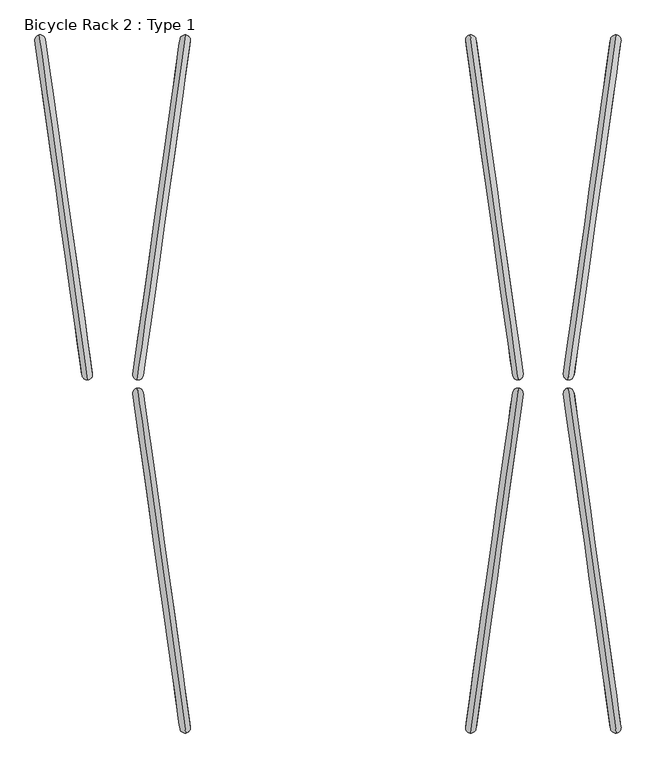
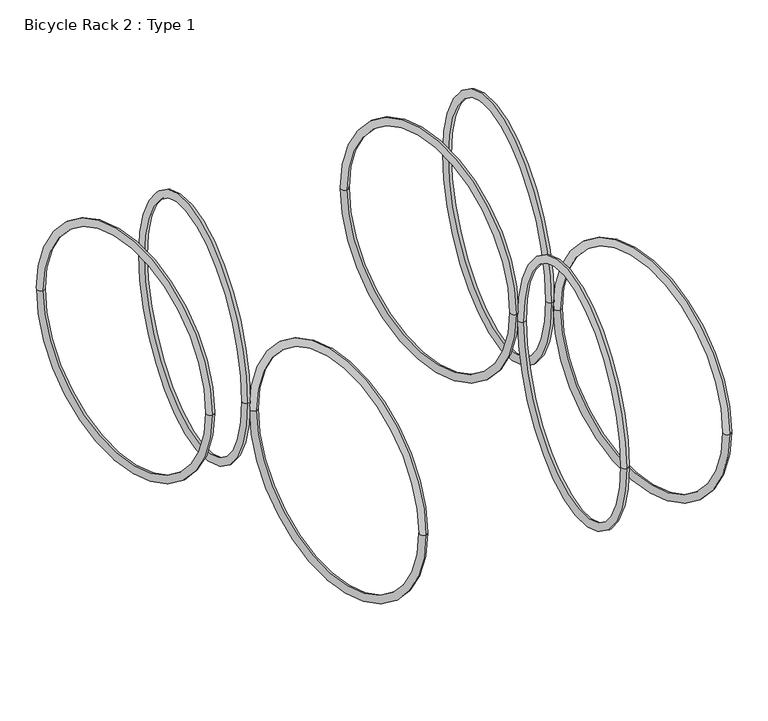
"""IFC4 building model written with IfcOpenShell, lengths in millimetres: proxy geometry, Bicycle Rack 2 : Type 1."""

from ifc_helpers import new_model, si_unit, point, frame, origin, place, context, project, spatial, circle_curve, ellipse_curve, trimmed, source, transform, mapped, element, save
from ifc_brep_helpers import revolved_surface, advanced_brep


def bicycle_rack_2_type_1_ab666c17(model_context):
    return source(origin(), model_context, "Body", "AdvancedBrep", [
        advanced_brep(
        [(1982.5111695, -21.9255981, 304.7993564), (2051.0017319, -509.2612714, 304.7993564), (2053.2111048, -524.981777, 304.7993564), (1980.3017966, -6.2050925, 304.7993564)],
        [
            (0, 1, circle_curve(frame((2016.7564507, -265.5934347, 304.7993564), z_axis=(0.9902680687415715, 0.1391731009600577, 0.0), x_axis=(0.1391731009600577, -0.9902680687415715, 0.0)), 246.0625)),
            (1, 2, circle_curve(frame((2052.1064183, -517.1215242, 304.7993564), z_axis=(0.0, 0.0, 1.0), x_axis=(-0.13917310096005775, 0.9902680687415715, 0.0)), 7.9375)),
            (2, 3, circle_curve(frame((2016.7564507, -265.5934347, 304.7993564), z_axis=(-0.9902680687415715, -0.1391731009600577, 0.0), x_axis=(0.1391731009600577, -0.9902680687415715, 0.0)), 261.9375)),
            (3, 0, circle_curve(frame((1981.4064831, -14.0653453, 304.7993564), z_axis=(0.0, 0.0, 1.0), x_axis=(0.13917310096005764, -0.9902680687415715, 0.0)), 7.9375)),
            (2, 1, circle_curve(frame((2052.1064183, -517.1215242, 304.7993564), z_axis=(0.0, 0.0, 1.0), x_axis=(-0.13917310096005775, 0.9902680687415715, 0.0)), 7.9375)),
            (0, 3, circle_curve(frame((1981.4064831, -14.0653453, 304.7993564), z_axis=(0.0, 0.0, 1.0), x_axis=(0.13917310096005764, -0.9902680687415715, 0.0)), 7.9375)),
            (1, 0, circle_curve(frame((2016.7564507, -265.5934347, 304.7993564), z_axis=(0.9902680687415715, 0.1391731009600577, 0.0), x_axis=(-0.1391731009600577, 0.9902680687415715, 0.0)), 246.0625)),
            (3, 2, circle_curve(frame((2016.7564507, -265.5934347, 304.7993564), z_axis=(-0.9902680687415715, -0.1391731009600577, 0.0), x_axis=(-0.1391731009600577, 0.9902680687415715, 0.0)), 261.9375)),
        ],
        [
            revolved_surface(trimmed(ellipse_curve(frame((2052.1064183, -517.1215242, 304.7993564), z_axis=(0.0, 0.0, -1.0), x_axis=(-0.13917310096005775, 0.9902680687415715, 0.0)), 7.9375, 7.9375), [point((2053.2111048, -524.981777, 304.7993564))], [point((2051.0017319, -509.2612714, 304.7993564))], True, "CARTESIAN"), (1828.1103836, -292.1059105, 304.7993564), (-0.9902680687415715, -0.1391731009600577, 0.0)),
            revolved_surface(trimmed(ellipse_curve(frame((2052.1064183, -517.1215242, 304.7993564), z_axis=(0.0, 0.0, -1.0), x_axis=(-0.13917310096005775, 0.9902680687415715, 0.0)), 7.9375, 7.9375), [point((2051.0017319, -509.2612714, 304.7993564))], [point((2053.2111048, -524.981777, 304.7993564))], True, "CARTESIAN"), (1828.1103836, -292.1059105, 304.7993564), (-0.9902680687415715, -0.1391731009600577, 0.0)),
            revolved_surface(trimmed(ellipse_curve(frame((1981.4064831, -14.0653453, 304.7993564), z_axis=(0.0, 0.0, 1.0), x_axis=(0.1391731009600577, -0.9902680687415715, 0.0)), 7.9375, 7.9375), [point((1980.3017966, -6.2050925, 304.7993564))], [point((1982.5111695, -21.9255981, 304.7993564))], True, "CARTESIAN"), (1828.1103836, -292.1059105, 304.7993564), (-0.9902680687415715, -0.1391731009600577, 0.0)),
            revolved_surface(trimmed(ellipse_curve(frame((1981.4064831, -14.0653453, 304.7993564), z_axis=(0.0, 0.0, 1.0), x_axis=(0.1391731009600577, -0.9902680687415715, 0.0)), 7.9375, 7.9375), [point((1982.5111695, -21.9255981, 304.7993564))], [point((1980.3017966, -6.2050925, 304.7993564))], True, "CARTESIAN"), (1828.1103836, -292.1059105, 304.7993564), (-0.9902680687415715, -0.1391731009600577, 0.0)),
        ],
        [
            (0, [[1, 2, 3, 4]]),
            (1, [[-3, 5, -1, 6]]),
            (2, [[7, -4, 8, -2]]),
            (3, [[-8, -6, -7, -5]]),
        ],
    ),
        advanced_brep(
        [(1982.5111695, 21.9255981, 304.7993564), (2051.0017319, 509.2612714, 304.7993564), (2053.2111048, 524.981777, 304.7993564), (1980.3017966, 6.2050925, 304.7993564)],
        [
            (0, 1, circle_curve(frame((2016.7564507, 265.5934347, 304.7993564), z_axis=(-0.9902680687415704, 0.13917310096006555, 0.0), x_axis=(0.13917310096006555, 0.9902680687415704, 0.0)), 246.0625)),
            (1, 2, circle_curve(frame((2052.1064183, 517.1215242, 304.7993564), z_axis=(0.0, 0.0, 1.0000000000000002), x_axis=(-0.13917310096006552, -0.9902680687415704, 0.0)), 7.9375)),
            (2, 3, circle_curve(frame((2016.7564507, 265.5934347, 304.7993564), z_axis=(0.9902680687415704, -0.13917310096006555, 0.0), x_axis=(0.13917310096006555, 0.9902680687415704, 0.0)), 261.9375)),
            (3, 0, circle_curve(frame((1981.4064831, 14.0653453, 304.7993564), z_axis=(0.0, 0.0, 1.0000000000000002), x_axis=(0.13917310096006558, 0.9902680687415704, 0.0)), 7.9375)),
            (2, 1, circle_curve(frame((2052.1064183, 517.1215242, 304.7993564), z_axis=(0.0, 0.0, 1.0000000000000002), x_axis=(-0.13917310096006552, -0.9902680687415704, 0.0)), 7.9375)),
            (0, 3, circle_curve(frame((1981.4064831, 14.0653453, 304.7993564), z_axis=(0.0, 0.0, 1.0000000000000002), x_axis=(0.13917310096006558, 0.9902680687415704, 0.0)), 7.9375)),
            (1, 0, circle_curve(frame((2016.7564507, 265.5934347, 304.7993564), z_axis=(-0.9902680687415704, 0.13917310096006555, 0.0), x_axis=(-0.13917310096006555, -0.9902680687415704, 0.0)), 246.0625)),
            (3, 2, circle_curve(frame((2016.7564507, 265.5934347, 304.7993564), z_axis=(0.9902680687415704, -0.13917310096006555, 0.0), x_axis=(-0.13917310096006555, -0.9902680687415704, 0.0)), 261.9375)),
        ],
        [
            revolved_surface(trimmed(ellipse_curve(frame((2052.1064183, 517.1215242, 304.7993564), z_axis=(0.0, 0.0, -1.0000000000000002), x_axis=(-0.13917310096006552, -0.9902680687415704, 0.0)), 7.9375, 7.9375), [point((2053.2111048, 524.981777, 304.7993564))], [point((2051.0017319, 509.2612714, 304.7993564))], True, "CARTESIAN"), (1828.1103836, 292.1059105, 304.7993564), (0.9902680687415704, -0.13917310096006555, 0.0)),
            revolved_surface(trimmed(ellipse_curve(frame((2052.1064183, 517.1215242, 304.7993564), z_axis=(0.0, 0.0, -1.0000000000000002), x_axis=(-0.13917310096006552, -0.9902680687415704, 0.0)), 7.9375, 7.9375), [point((2051.0017319, 509.2612714, 304.7993564))], [point((2053.2111048, 524.981777, 304.7993564))], True, "CARTESIAN"), (1828.1103836, 292.1059105, 304.7993564), (0.9902680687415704, -0.13917310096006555, 0.0)),
            revolved_surface(trimmed(ellipse_curve(frame((1981.4064831, 14.0653453, 304.7993564), z_axis=(0.0, 0.0, 1.0000000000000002), x_axis=(0.13917310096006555, 0.9902680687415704, 0.0)), 7.9375, 7.9375), [point((1980.3017966, 6.2050925, 304.7993564))], [point((1982.5111695, 21.9255981, 304.7993564))], True, "CARTESIAN"), (1828.1103836, 292.1059105, 304.7993564), (0.9902680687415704, -0.13917310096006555, 0.0)),
            revolved_surface(trimmed(ellipse_curve(frame((1981.4064831, 14.0653453, 304.7993564), z_axis=(0.0, 0.0, 1.0000000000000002), x_axis=(0.13917310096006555, 0.9902680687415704, 0.0)), 7.9375, 7.9375), [point((1982.5111695, 21.9255981, 304.7993564))], [point((1980.3017966, 6.2050925, 304.7993564))], True, "CARTESIAN"), (1828.1103836, 292.1059105, 304.7993564), (0.9902680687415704, -0.13917310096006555, 0.0)),
        ],
        [
            (0, [[1, 2, 3, 4]]),
            (1, [[-3, 5, -1, 6]]),
            (2, [[7, -4, 8, -2]]),
            (3, [[-8, -6, -7, -5]]),
        ],
    ),
        advanced_brep(
        [(1903.6888305, 21.9255981, 304.7993564), (1835.1982681, 509.2612714, 304.7993564), (1832.9888952, 524.981777, 304.7993564), (1905.8982034, 6.2050925, 304.7993564)],
        [
            (0, 1, circle_curve(frame((1869.4435493, 265.5934347, 304.7993564), z_axis=(-0.9902680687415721, -0.13917310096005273, 0.0), x_axis=(-0.13917310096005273, 0.9902680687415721, 0.0)), 246.0625)),
            (1, 2, circle_curve(frame((1834.0935817, 517.1215242, 304.7993564), z_axis=(0.0, 0.0, 1.0), x_axis=(0.13917310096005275, -0.9902680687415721, 0.0)), 7.9375)),
            (2, 3, circle_curve(frame((1869.4435493, 265.5934347, 304.7993564), z_axis=(0.9902680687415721, 0.13917310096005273, 0.0), x_axis=(-0.13917310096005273, 0.9902680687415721, 0.0)), 261.9375)),
            (3, 0, circle_curve(frame((1904.7935169, 14.0653453, 304.7993564), z_axis=(0.0, 0.0, 1.0), x_axis=(-0.1391731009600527, 0.9902680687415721, 0.0)), 7.9375)),
            (2, 1, circle_curve(frame((1834.0935817, 517.1215242, 304.7993564), z_axis=(0.0, 0.0, 1.0), x_axis=(0.13917310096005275, -0.9902680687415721, 0.0)), 7.9375)),
            (0, 3, circle_curve(frame((1904.7935169, 14.0653453, 304.7993564), z_axis=(0.0, 0.0, 1.0), x_axis=(-0.1391731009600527, 0.9902680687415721, 0.0)), 7.9375)),
            (1, 0, circle_curve(frame((1869.4435493, 265.5934347, 304.7993564), z_axis=(-0.9902680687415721, -0.13917310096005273, 0.0), x_axis=(0.13917310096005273, -0.9902680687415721, 0.0)), 246.0625)),
            (3, 2, circle_curve(frame((1869.4435493, 265.5934347, 304.7993564), z_axis=(0.9902680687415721, 0.13917310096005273, 0.0), x_axis=(0.13917310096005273, -0.9902680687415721, 0.0)), 261.9375)),
        ],
        [
            revolved_surface(trimmed(ellipse_curve(frame((1834.0935817, 517.1215242, 304.7993564), z_axis=(0.0, 0.0, -1.0), x_axis=(0.13917310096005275, -0.9902680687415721, 0.0)), 7.9375, 7.9375), [point((1832.9888952, 524.981777, 304.7993564))], [point((1835.1982681, 509.2612714, 304.7993564))], True, "CARTESIAN"), (2058.0896164, 292.1059105, 304.7993564), (0.9902680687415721, 0.13917310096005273, 0.0)),
            revolved_surface(trimmed(ellipse_curve(frame((1834.0935817, 517.1215242, 304.7993564), z_axis=(0.0, 0.0, -1.0), x_axis=(0.13917310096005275, -0.9902680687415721, 0.0)), 7.9375, 7.9375), [point((1835.1982681, 509.2612714, 304.7993564))], [point((1832.9888952, 524.981777, 304.7993564))], True, "CARTESIAN"), (2058.0896164, 292.1059105, 304.7993564), (0.9902680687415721, 0.13917310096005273, 0.0)),
            revolved_surface(trimmed(ellipse_curve(frame((1904.7935169, 14.0653453, 304.7993564), z_axis=(0.0, 0.0, 1.0), x_axis=(-0.1391731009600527, 0.9902680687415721, 0.0)), 7.9375, 7.9375), [point((1905.8982034, 6.2050925, 304.7993564))], [point((1903.6888305, 21.9255981, 304.7993564))], True, "CARTESIAN"), (2058.0896164, 292.1059105, 304.7993564), (0.9902680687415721, 0.13917310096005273, 0.0)),
            revolved_surface(trimmed(ellipse_curve(frame((1904.7935169, 14.0653453, 304.7993564), z_axis=(0.0, 0.0, 1.0), x_axis=(-0.1391731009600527, 0.9902680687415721, 0.0)), 7.9375, 7.9375), [point((1903.6888305, 21.9255981, 304.7993564))], [point((1905.8982034, 6.2050925, 304.7993564))], True, "CARTESIAN"), (2058.0896164, 292.1059105, 304.7993564), (0.9902680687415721, 0.13917310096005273, 0.0)),
        ],
        [
            (0, [[1, 2, 3, 4]]),
            (1, [[-3, 5, -1, 6]]),
            (2, [[7, -4, 8, -2]]),
            (3, [[-8, -6, -7, -5]]),
        ],
    ),
        advanced_brep(
        [(2551.3888305, -21.9255981, 304.7993564), (2482.8982681, -509.2612714, 304.7993564), (2480.6888952, -524.981777, 304.7993564), (2553.5982034, -6.2050925, 304.7993564)],
        [
            (0, 1, circle_curve(frame((2517.1435493, -265.5934347, 304.7993564), z_axis=(0.990268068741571, -0.13917310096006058, 0.0), x_axis=(-0.13917310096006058, -0.990268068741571, 0.0)), 246.0625)),
            (1, 2, circle_curve(frame((2481.7935817, -517.1215242, 304.7993564), z_axis=(0.0, 0.0, 1.0), x_axis=(0.13917310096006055, 0.990268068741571, 0.0)), 7.9375)),
            (2, 3, circle_curve(frame((2517.1435493, -265.5934347, 304.7993564), z_axis=(-0.990268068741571, 0.13917310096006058, 0.0), x_axis=(-0.13917310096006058, -0.990268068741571, 0.0)), 261.9375)),
            (3, 0, circle_curve(frame((2552.4935169, -14.0653453, 304.7993564), z_axis=(0.0, 0.0, 1.0), x_axis=(-0.1391731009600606, -0.990268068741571, 0.0)), 7.9375)),
            (2, 1, circle_curve(frame((2481.7935817, -517.1215242, 304.7993564), z_axis=(0.0, 0.0, 1.0), x_axis=(0.13917310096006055, 0.990268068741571, 0.0)), 7.9375)),
            (0, 3, circle_curve(frame((2552.4935169, -14.0653453, 304.7993564), z_axis=(0.0, 0.0, 1.0), x_axis=(-0.1391731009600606, -0.990268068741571, 0.0)), 7.9375)),
            (1, 0, circle_curve(frame((2517.1435493, -265.5934347, 304.7993564), z_axis=(0.990268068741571, -0.13917310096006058, 0.0), x_axis=(0.13917310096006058, 0.990268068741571, 0.0)), 246.0625)),
            (3, 2, circle_curve(frame((2517.1435493, -265.5934347, 304.7993564), z_axis=(-0.990268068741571, 0.13917310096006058, 0.0), x_axis=(0.13917310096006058, 0.990268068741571, 0.0)), 261.9375)),
        ],
        [
            revolved_surface(trimmed(ellipse_curve(frame((2481.7935817, -517.1215242, 304.7993564), z_axis=(0.0, 0.0, -1.0), x_axis=(0.13917310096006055, 0.990268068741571, 0.0)), 7.9375, 7.9375), [point((2480.6888952, -524.981777, 304.7993564))], [point((2482.8982681, -509.2612714, 304.7993564))], True, "CARTESIAN"), (2705.7896164, -292.1059105, 304.7993564), (-0.990268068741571, 0.13917310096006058, 0.0)),
            revolved_surface(trimmed(ellipse_curve(frame((2481.7935817, -517.1215242, 304.7993564), z_axis=(0.0, 0.0, -1.0), x_axis=(0.13917310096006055, 0.990268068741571, 0.0)), 7.9375, 7.9375), [point((2482.8982681, -509.2612714, 304.7993564))], [point((2480.6888952, -524.981777, 304.7993564))], True, "CARTESIAN"), (2705.7896164, -292.1059105, 304.7993564), (-0.990268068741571, 0.13917310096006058, 0.0)),
            revolved_surface(trimmed(ellipse_curve(frame((2552.4935169, -14.0653453, 304.7993564), z_axis=(0.0, 0.0, 1.0), x_axis=(-0.13917310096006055, -0.990268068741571, 0.0)), 7.9375, 7.9375), [point((2553.5982034, -6.2050925, 304.7993564))], [point((2551.3888305, -21.9255981, 304.7993564))], True, "CARTESIAN"), (2705.7896164, -292.1059105, 304.7993564), (-0.990268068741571, 0.13917310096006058, 0.0)),
            revolved_surface(trimmed(ellipse_curve(frame((2552.4935169, -14.0653453, 304.7993564), z_axis=(0.0, 0.0, 1.0), x_axis=(-0.13917310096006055, -0.990268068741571, 0.0)), 7.9375, 7.9375), [point((2551.3888305, -21.9255981, 304.7993564))], [point((2553.5982034, -6.2050925, 304.7993564))], True, "CARTESIAN"), (2705.7896164, -292.1059105, 304.7993564), (-0.990268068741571, 0.13917310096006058, 0.0)),
        ],
        [
            (0, [[1, 2, 3, 4]]),
            (1, [[-3, 5, -1, 6]]),
            (2, [[7, -4, 8, -2]]),
            (3, [[-8, -6, -7, -5]]),
        ],
    ),
        advanced_brep(
        [(2630.2111695, -21.9255981, 304.7993564), (2698.7017319, -509.2612714, 304.7993564), (2700.9111048, -524.981777, 304.7993564), (2628.0017966, -6.2050925, 304.7993564)],
        [
            (0, 1, circle_curve(frame((2664.4564507, -265.5934347, 304.7993564), z_axis=(0.9902680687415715, 0.1391731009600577, 0.0), x_axis=(0.1391731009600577, -0.9902680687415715, 0.0)), 246.0625)),
            (1, 2, circle_curve(frame((2699.8064183, -517.1215242, 304.7993564), z_axis=(0.0, 0.0, 1.0), x_axis=(-0.13917310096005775, 0.9902680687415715, 0.0)), 7.9375)),
            (2, 3, circle_curve(frame((2664.4564507, -265.5934347, 304.7993564), z_axis=(-0.9902680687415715, -0.1391731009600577, 0.0), x_axis=(0.1391731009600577, -0.9902680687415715, 0.0)), 261.9375)),
            (3, 0, circle_curve(frame((2629.1064831, -14.0653453, 304.7993564), z_axis=(0.0, 0.0, 1.0), x_axis=(0.13917310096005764, -0.9902680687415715, 0.0)), 7.9375)),
            (2, 1, circle_curve(frame((2699.8064183, -517.1215242, 304.7993564), z_axis=(0.0, 0.0, 1.0), x_axis=(-0.13917310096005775, 0.9902680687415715, 0.0)), 7.9375)),
            (0, 3, circle_curve(frame((2629.1064831, -14.0653453, 304.7993564), z_axis=(0.0, 0.0, 1.0), x_axis=(0.13917310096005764, -0.9902680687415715, 0.0)), 7.9375)),
            (1, 0, circle_curve(frame((2664.4564507, -265.5934347, 304.7993564), z_axis=(0.9902680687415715, 0.1391731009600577, 0.0), x_axis=(-0.1391731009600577, 0.9902680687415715, 0.0)), 246.0625)),
            (3, 2, circle_curve(frame((2664.4564507, -265.5934347, 304.7993564), z_axis=(-0.9902680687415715, -0.1391731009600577, 0.0), x_axis=(-0.1391731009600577, 0.9902680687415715, 0.0)), 261.9375)),
        ],
        [
            revolved_surface(trimmed(ellipse_curve(frame((2699.8064183, -517.1215242, 304.7993564), z_axis=(0.0, 0.0, -1.0), x_axis=(-0.13917310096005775, 0.9902680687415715, 0.0)), 7.9375, 7.9375), [point((2700.9111048, -524.981777, 304.7993564))], [point((2698.7017319, -509.2612714, 304.7993564))], True, "CARTESIAN"), (2475.8103836, -292.1059105, 304.7993564), (-0.9902680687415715, -0.1391731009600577, 0.0)),
            revolved_surface(trimmed(ellipse_curve(frame((2699.8064183, -517.1215242, 304.7993564), z_axis=(0.0, 0.0, -1.0), x_axis=(-0.13917310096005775, 0.9902680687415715, 0.0)), 7.9375, 7.9375), [point((2698.7017319, -509.2612714, 304.7993564))], [point((2700.9111048, -524.981777, 304.7993564))], True, "CARTESIAN"), (2475.8103836, -292.1059105, 304.7993564), (-0.9902680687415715, -0.1391731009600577, 0.0)),
            revolved_surface(trimmed(ellipse_curve(frame((2629.1064831, -14.0653453, 304.7993564), z_axis=(0.0, 0.0, 1.0), x_axis=(0.1391731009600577, -0.9902680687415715, 0.0)), 7.9375, 7.9375), [point((2628.0017966, -6.2050925, 304.7993564))], [point((2630.2111695, -21.9255981, 304.7993564))], True, "CARTESIAN"), (2475.8103836, -292.1059105, 304.7993564), (-0.9902680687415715, -0.1391731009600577, 0.0)),
            revolved_surface(trimmed(ellipse_curve(frame((2629.1064831, -14.0653453, 304.7993564), z_axis=(0.0, 0.0, 1.0), x_axis=(0.1391731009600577, -0.9902680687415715, 0.0)), 7.9375, 7.9375), [point((2630.2111695, -21.9255981, 304.7993564))], [point((2628.0017966, -6.2050925, 304.7993564))], True, "CARTESIAN"), (2475.8103836, -292.1059105, 304.7993564), (-0.9902680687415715, -0.1391731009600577, 0.0)),
        ],
        [
            (0, [[1, 2, 3, 4]]),
            (1, [[-3, 5, -1, 6]]),
            (2, [[7, -4, 8, -2]]),
            (3, [[-8, -6, -7, -5]]),
        ],
    ),
        advanced_brep(
        [(2630.2111695, 21.9255981, 304.7993564), (2698.7017319, 509.2612714, 304.7993564), (2700.9111048, 524.981777, 304.7993564), (2628.0017966, 6.2050925, 304.7993564)],
        [
            (0, 1, circle_curve(frame((2664.4564507, 265.5934347, 304.7993564), z_axis=(-0.9902680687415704, 0.13917310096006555, 0.0), x_axis=(0.13917310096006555, 0.9902680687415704, 0.0)), 246.0625)),
            (1, 2, circle_curve(frame((2699.8064183, 517.1215242, 304.7993564), z_axis=(0.0, 0.0, 1.0000000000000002), x_axis=(-0.13917310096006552, -0.9902680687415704, 0.0)), 7.9375)),
            (2, 3, circle_curve(frame((2664.4564507, 265.5934347, 304.7993564), z_axis=(0.9902680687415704, -0.13917310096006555, 0.0), x_axis=(0.13917310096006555, 0.9902680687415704, 0.0)), 261.9375)),
            (3, 0, circle_curve(frame((2629.1064831, 14.0653453, 304.7993564), z_axis=(0.0, 0.0, 1.0000000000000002), x_axis=(0.13917310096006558, 0.9902680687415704, 0.0)), 7.9375)),
            (2, 1, circle_curve(frame((2699.8064183, 517.1215242, 304.7993564), z_axis=(0.0, 0.0, 1.0000000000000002), x_axis=(-0.13917310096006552, -0.9902680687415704, 0.0)), 7.9375)),
            (0, 3, circle_curve(frame((2629.1064831, 14.0653453, 304.7993564), z_axis=(0.0, 0.0, 1.0000000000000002), x_axis=(0.13917310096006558, 0.9902680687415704, 0.0)), 7.9375)),
            (1, 0, circle_curve(frame((2664.4564507, 265.5934347, 304.7993564), z_axis=(-0.9902680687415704, 0.13917310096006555, 0.0), x_axis=(-0.13917310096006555, -0.9902680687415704, 0.0)), 246.0625)),
            (3, 2, circle_curve(frame((2664.4564507, 265.5934347, 304.7993564), z_axis=(0.9902680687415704, -0.13917310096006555, 0.0), x_axis=(-0.13917310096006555, -0.9902680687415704, 0.0)), 261.9375)),
        ],
        [
            revolved_surface(trimmed(ellipse_curve(frame((2699.8064183, 517.1215242, 304.7993564), z_axis=(0.0, 0.0, -1.0000000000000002), x_axis=(-0.13917310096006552, -0.9902680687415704, 0.0)), 7.9375, 7.9375), [point((2700.9111048, 524.981777, 304.7993564))], [point((2698.7017319, 509.2612714, 304.7993564))], True, "CARTESIAN"), (2475.8103836, 292.1059105, 304.7993564), (0.9902680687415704, -0.13917310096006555, 0.0)),
            revolved_surface(trimmed(ellipse_curve(frame((2699.8064183, 517.1215242, 304.7993564), z_axis=(0.0, 0.0, -1.0000000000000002), x_axis=(-0.13917310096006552, -0.9902680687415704, 0.0)), 7.9375, 7.9375), [point((2698.7017319, 509.2612714, 304.7993564))], [point((2700.9111048, 524.981777, 304.7993564))], True, "CARTESIAN"), (2475.8103836, 292.1059105, 304.7993564), (0.9902680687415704, -0.13917310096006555, 0.0)),
            revolved_surface(trimmed(ellipse_curve(frame((2629.1064831, 14.0653453, 304.7993564), z_axis=(0.0, 0.0, 1.0000000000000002), x_axis=(0.13917310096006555, 0.9902680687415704, 0.0)), 7.9375, 7.9375), [point((2628.0017966, 6.2050925, 304.7993564))], [point((2630.2111695, 21.9255981, 304.7993564))], True, "CARTESIAN"), (2475.8103836, 292.1059105, 304.7993564), (0.9902680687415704, -0.13917310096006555, 0.0)),
            revolved_surface(trimmed(ellipse_curve(frame((2629.1064831, 14.0653453, 304.7993564), z_axis=(0.0, 0.0, 1.0000000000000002), x_axis=(0.13917310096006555, 0.9902680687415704, 0.0)), 7.9375, 7.9375), [point((2630.2111695, 21.9255981, 304.7993564))], [point((2628.0017966, 6.2050925, 304.7993564))], True, "CARTESIAN"), (2475.8103836, 292.1059105, 304.7993564), (0.9902680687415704, -0.13917310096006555, 0.0)),
        ],
        [
            (0, [[1, 2, 3, 4]]),
            (1, [[-3, 5, -1, 6]]),
            (2, [[7, -4, 8, -2]]),
            (3, [[-8, -6, -7, -5]]),
        ],
    ),
        advanced_brep(
        [(2551.3888305, 21.9255981, 304.7993564), (2482.8982681, 509.2612714, 304.7993564), (2480.6888952, 524.981777, 304.7993564), (2553.5982034, 6.2050925, 304.7993564)],
        [
            (0, 1, circle_curve(frame((2517.1435493, 265.5934347, 304.7993564), z_axis=(-0.9902680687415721, -0.13917310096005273, 0.0), x_axis=(-0.13917310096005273, 0.9902680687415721, 0.0)), 246.0625)),
            (1, 2, circle_curve(frame((2481.7935817, 517.1215242, 304.7993564), z_axis=(0.0, 0.0, 1.0), x_axis=(0.13917310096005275, -0.9902680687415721, 0.0)), 7.9375)),
            (2, 3, circle_curve(frame((2517.1435493, 265.5934347, 304.7993564), z_axis=(0.9902680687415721, 0.13917310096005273, 0.0), x_axis=(-0.13917310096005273, 0.9902680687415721, 0.0)), 261.9375)),
            (3, 0, circle_curve(frame((2552.4935169, 14.0653453, 304.7993564), z_axis=(0.0, 0.0, 1.0), x_axis=(-0.1391731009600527, 0.9902680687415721, 0.0)), 7.9375)),
            (2, 1, circle_curve(frame((2481.7935817, 517.1215242, 304.7993564), z_axis=(0.0, 0.0, 1.0), x_axis=(0.13917310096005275, -0.9902680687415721, 0.0)), 7.9375)),
            (0, 3, circle_curve(frame((2552.4935169, 14.0653453, 304.7993564), z_axis=(0.0, 0.0, 1.0), x_axis=(-0.1391731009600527, 0.9902680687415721, 0.0)), 7.9375)),
            (1, 0, circle_curve(frame((2517.1435493, 265.5934347, 304.7993564), z_axis=(-0.9902680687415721, -0.13917310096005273, 0.0), x_axis=(0.13917310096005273, -0.9902680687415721, 0.0)), 246.0625)),
            (3, 2, circle_curve(frame((2517.1435493, 265.5934347, 304.7993564), z_axis=(0.9902680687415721, 0.13917310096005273, 0.0), x_axis=(0.13917310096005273, -0.9902680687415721, 0.0)), 261.9375)),
        ],
        [
            revolved_surface(trimmed(ellipse_curve(frame((2481.7935817, 517.1215242, 304.7993564), z_axis=(0.0, 0.0, -1.0), x_axis=(0.13917310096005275, -0.9902680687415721, 0.0)), 7.9375, 7.9375), [point((2480.6888952, 524.981777, 304.7993564))], [point((2482.8982681, 509.2612714, 304.7993564))], True, "CARTESIAN"), (2705.7896164, 292.1059105, 304.7993564), (0.9902680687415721, 0.13917310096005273, 0.0)),
            revolved_surface(trimmed(ellipse_curve(frame((2481.7935817, 517.1215242, 304.7993564), z_axis=(0.0, 0.0, -1.0), x_axis=(0.13917310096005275, -0.9902680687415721, 0.0)), 7.9375, 7.9375), [point((2482.8982681, 509.2612714, 304.7993564))], [point((2480.6888952, 524.981777, 304.7993564))], True, "CARTESIAN"), (2705.7896164, 292.1059105, 304.7993564), (0.9902680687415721, 0.13917310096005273, 0.0)),
            revolved_surface(trimmed(ellipse_curve(frame((2552.4935169, 14.0653453, 304.7993564), z_axis=(0.0, 0.0, 1.0), x_axis=(-0.1391731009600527, 0.9902680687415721, 0.0)), 7.9375, 7.9375), [point((2553.5982034, 6.2050925, 304.7993564))], [point((2551.3888305, 21.9255981, 304.7993564))], True, "CARTESIAN"), (2705.7896164, 292.1059105, 304.7993564), (0.9902680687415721, 0.13917310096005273, 0.0)),
            revolved_surface(trimmed(ellipse_curve(frame((2552.4935169, 14.0653453, 304.7993564), z_axis=(0.0, 0.0, 1.0), x_axis=(-0.1391731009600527, 0.9902680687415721, 0.0)), 7.9375, 7.9375), [point((2551.3888305, 21.9255981, 304.7993564))], [point((2553.5982034, 6.2050925, 304.7993564))], True, "CARTESIAN"), (2705.7896164, 292.1059105, 304.7993564), (0.9902680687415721, 0.13917310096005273, 0.0)),
        ],
        [
            (0, [[1, 2, 3, 4]]),
            (1, [[-3, 5, -1, 6]]),
            (2, [[7, -4, 8, -2]]),
            (3, [[-8, -6, -7, -5]]),
        ],
    ),
    ])


if __name__ == "__main__":
    model = new_model("IFC4")
    model_context = context("Model", 3, world=origin())
    ifc_project = project(units=[si_unit("LENGTHUNIT", "METRE", prefix="MILLI")], contexts=[model_context])
    site = spatial("IfcSite", under=ifc_project)
    building = spatial("IfcBuilding", under=site)
    placement = place(None, origin())
    bicycle_rack_2_type_1_shape = bicycle_rack_2_type_1_ab666c17(model_context)
    element("IfcBuildingElementProxy", 1, Name="Bicycle Rack 2 : Type 1", ObjectType="Bicycle Rack 2 : Type 1", at=placement, inside=building, context=model_context, shape_type="MappedRepresentation", body=[
        mapped(bicycle_rack_2_type_1_shape, transform((0.0, 0.0, 0.0), x_axis=(1.0, 0.0, 0.0), y_axis=(0.0, 1.0, 0.0), z_axis=(0.0, 0.0, 1.0))),
    ])
    save(model, "model.ifc")
